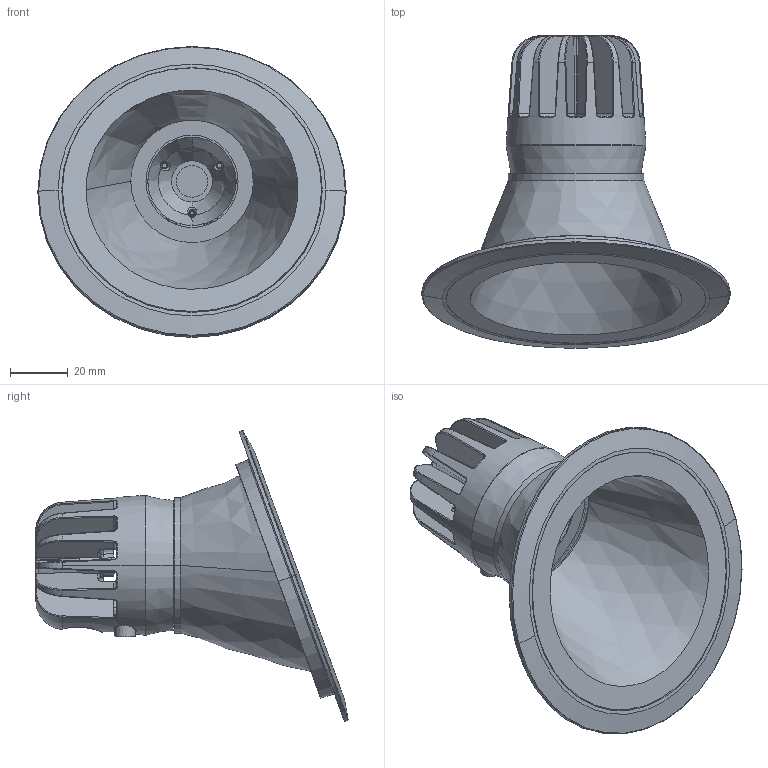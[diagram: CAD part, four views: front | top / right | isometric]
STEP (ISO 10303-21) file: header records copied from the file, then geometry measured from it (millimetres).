
FILE_DESCRIPTION((''),'2;1');
FILE_NAME('TONDO_80_ASIM_SW0001','2025-07-28T09:07:06',('Piccioli'),(''),'CREO PARAMETRIC BY PTC INC, 2025010','CREO PARAMETRIC BY PTC INC, 2025010','');
FILE_SCHEMA(('CONFIG_CONTROL_DESIGN'));
Length unit declared in the file: millimetre
Products named in the file (1): TONDO_80_ASIM_SW0001
Bounding box: 107.05 x 108.44 x 100.99 mm (x, y, z)
Surface area: 53558.2 mm2 (no closed solid volume)
Topology: 0 solids, 7 shells, 325 faces, 945 edges, 601 vertices
Faces by surface type: bspline 127, plane 64, cylinder 52, torus 44, cone 38
Entity records: 28305 total; most frequent: CARTESIAN_POINT 20800, ORIENTED_EDGE 1568, DIRECTION 1370, EDGE_CURVE 945, VERTEX_POINT 601, AXIS2_PLACEMENT_3D 585, CIRCLE 387, B_SPLINE_CURVE_WITH_KNOTS 358
